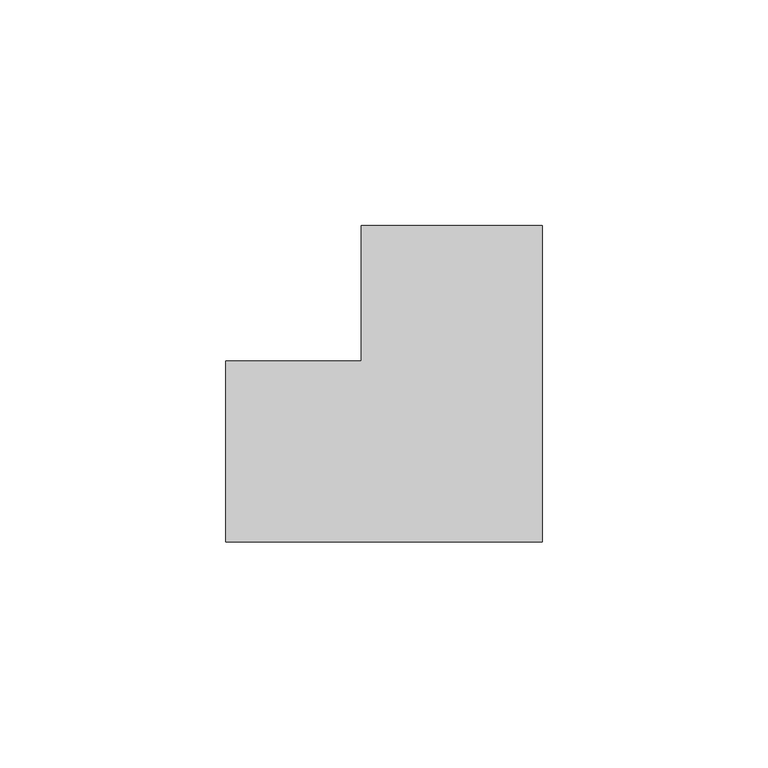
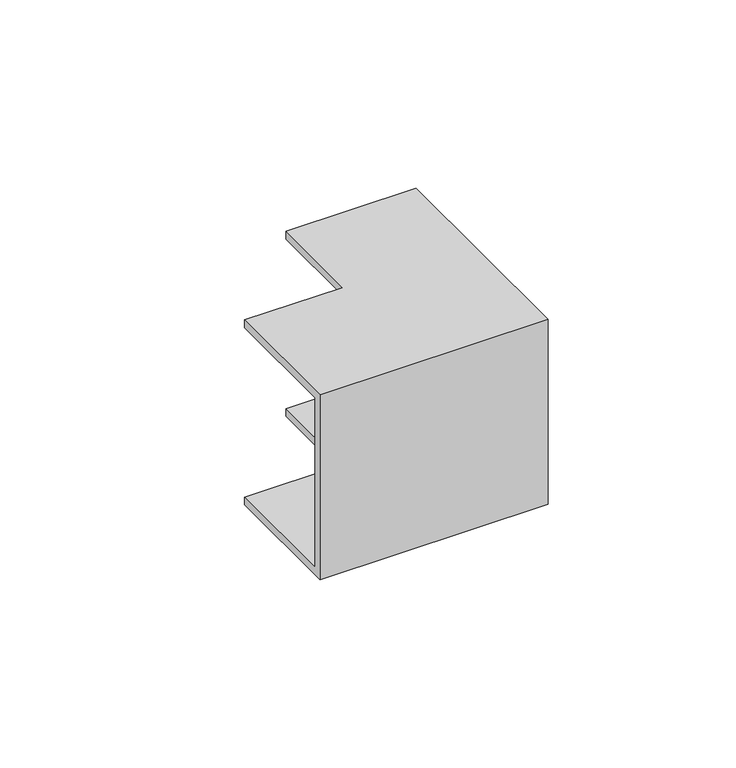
"""IFC4 building model written with IfcOpenShell, lengths in millimetres: cable carrier fitting geometry, КНС_УголВнутренний_ILC_DKC : Угол внутренний_DKC."""

from ifc_helpers import new_model, si_unit, origin, place, context, project, spatial, faceted_brep, source, transform, mapped, element, save


def cable_carrier_fitting_e32080dd(model_context):
    return source(origin(), model_context, "Body", "Brep", [
        faceted_brep([(-50.0, -20.0, 30.0), (-50.0, 20.0, 30.0), (-50.0, 20.0, 27.5), (-50.0, -17.5, 27.5), (-50.0, -17.5, -27.5), (-50.0, 20.0, -27.5), (-50.0, 20.0, -30.0), (-50.0, -20.0, -30.0), (20.0, 50.0, 30.0), (20.0, 50.0, -30.0), (-20.0, 50.0, -30.0), (-20.0, 50.0, -27.5), (17.5, 50.0, -27.5), (17.5, 50.0, 27.5), (-20.0, 50.0, 27.5), (-20.0, 50.0, 30.0), (20.0, -20.0, 30.0), (-20.0, 20.0, 30.0), (-20.0, 20.0, 27.5), (17.5, -17.5, 27.5), (17.5, -17.5, -27.5), (-20.0, 20.0, -27.5), (-20.0, 20.0, -30.0), (20.0, -20.0, -30.0)], [[[0, 1, 2, 3, 4, 5, 6, 7]], [[8, 9, 10, 11, 12, 13, 14, 15]], [[1, 0, 16, 8, 15, 17]], [[2, 1, 17, 18]], [[3, 2, 18, 14, 13, 19]], [[4, 3, 19, 20]], [[5, 4, 20, 12, 11, 21]], [[6, 5, 21, 22]], [[7, 6, 22, 10, 9, 23]], [[0, 7, 23, 16]], [[18, 17, 15, 14]], [[20, 19, 13, 12]], [[22, 21, 11, 10]], [[16, 23, 9, 8]]]),
    ])


if __name__ == "__main__":
    model = new_model("IFC4")
    model_context = context("Model", 3, world=origin())
    ifc_project = project(units=[si_unit("LENGTHUNIT", "METRE", prefix="MILLI")], contexts=[model_context])
    site = spatial("IfcSite", under=ifc_project)
    building = spatial("IfcBuilding", under=site)
    placement = place(None, origin())
    cable_carrier_fitting_shape = cable_carrier_fitting_e32080dd(model_context)
    element("IfcCableCarrierFitting", 1, ObjectType="КНС_УголВнутренний_ILC_DKC : Угол внутренний_DKC", at=placement, inside=building, context=model_context, shape_type="MappedRepresentation", body=[
        mapped(cable_carrier_fitting_shape, transform((0.0, 0.0, 0.0), x_axis=(1.0, 0.0, 0.0), y_axis=(0.0, 1.0, 0.0), z_axis=(0.0, 0.0, 1.0))),
    ])
    save(model, "model.ifc")
